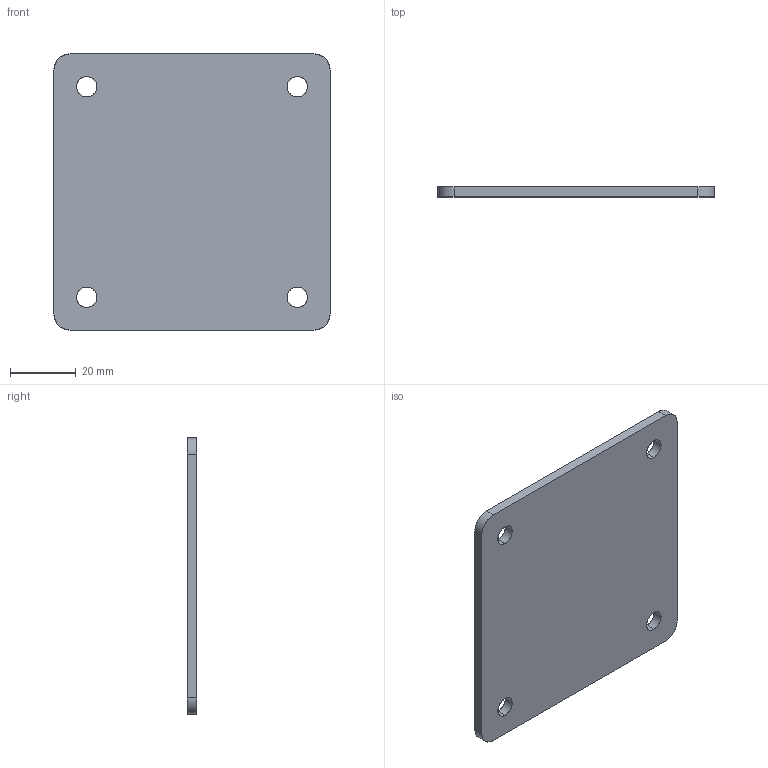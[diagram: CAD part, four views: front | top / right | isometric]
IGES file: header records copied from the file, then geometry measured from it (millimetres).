
Start section: SolidWorks IGES file using analytic representation for surfaces
Bounding box: 84 x 3 x 84 mm (x, y, z)
Surface area: 15043.5 mm2 (no closed solid volume)
Topology: 0 solids, 0 shells, 18 faces, 392 edges, 392 vertices
Faces by surface type: revolution 12, bspline 6
